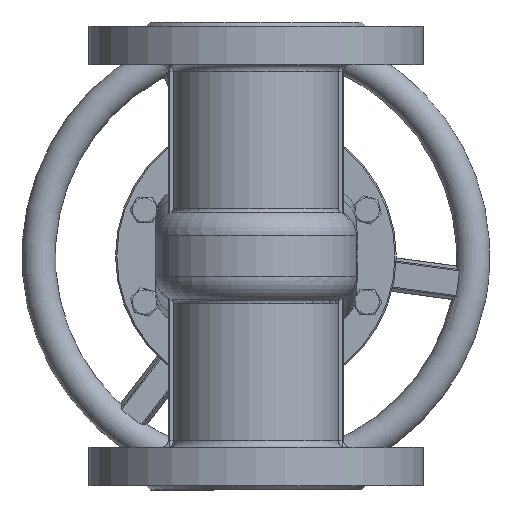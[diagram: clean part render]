
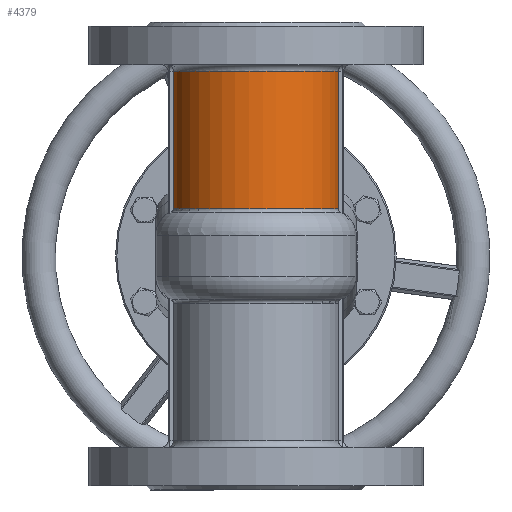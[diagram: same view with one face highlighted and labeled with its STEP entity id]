
A CAD part, front view. The second image highlights one B-rep face of the part: STEP entity #4379.
In plain terms, the highlighted cylindrical face has radius 62.5 mm (diameter 125 mm), a partial arc.
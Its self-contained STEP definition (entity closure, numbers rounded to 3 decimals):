
#4379=ADVANCED_FACE('',(#11567),#11569,.T.);
#11567=FACE_BOUND('',#11568,.T.);
#11568=EDGE_LOOP('',(#15329,#15330,#15331,#15332));
#11569=CYLINDRICAL_SURFACE('',#11570,62.5);
#11570=AXIS2_PLACEMENT_3D('',#11571,#11572,#11573);
#11571=CARTESIAN_POINT('',(0.,0.,95.));
#11572=DIRECTION('',(0.,0.,1.));
#11573=DIRECTION('',(1.,0.,0.));
#15329=ORIENTED_EDGE('',*,*,#17190,.T.);
#15330=ORIENTED_EDGE('',*,*,#17107,.F.);
#15331=ORIENTED_EDGE('',*,*,#17104,.T.);
#15332=ORIENTED_EDGE('',*,*,#17110,.T.);
#17104=EDGE_CURVE('',#19850,#19852,#19854,.T.);
#17107=EDGE_CURVE('',#19850,#19855,#19859,.T.);
#17110=EDGE_CURVE('',#19852,#19861,#19863,.T.);
#17190=EDGE_CURVE('',#19861,#19855,#19993,.F.);
#19850=VERTEX_POINT('',#42743);
#19852=VERTEX_POINT('',#42819);
#19854=CIRCLE('',#42898,62.5);
#19855=VERTEX_POINT('',#42902);
#19859=LINE('',#42910,#42911);
#19861=VERTEX_POINT('',#42917);
#19863=LINE('',#42921,#42922);
#19993=CIRCLE('',#43802,62.5);
#42743=CARTESIAN_POINT('',(-61.695,-10.,35.463));
#42819=CARTESIAN_POINT('',(61.695,-10.,35.463));
#42898=AXIS2_PLACEMENT_3D('',#42899,#42900,#42901);
#42899=CARTESIAN_POINT('',(0.,0.,35.463));
#42900=DIRECTION('',(0.,0.,1.));
#42901=DIRECTION('',(-0.987,-0.16,0.));
#42902=CARTESIAN_POINT('',(-61.695,-10.,138.));
#42910=CARTESIAN_POINT('',(-61.695,-10.,35.463));
#42911=VECTOR('',#42912,1.);
#42912=DIRECTION('',(0.,0.,1.));
#42917=CARTESIAN_POINT('',(61.695,-10.,138.));
#42921=CARTESIAN_POINT('',(61.695,-10.,35.463));
#42922=VECTOR('',#42923,1.);
#42923=DIRECTION('',(0.,0.,1.));
#43802=AXIS2_PLACEMENT_3D('',#43803,#43804,#43805);
#43803=CARTESIAN_POINT('',(0.,0.,138.));
#43804=DIRECTION('',(0.,0.,1.));
#43805=DIRECTION('',(-0.987,-0.16,0.));
